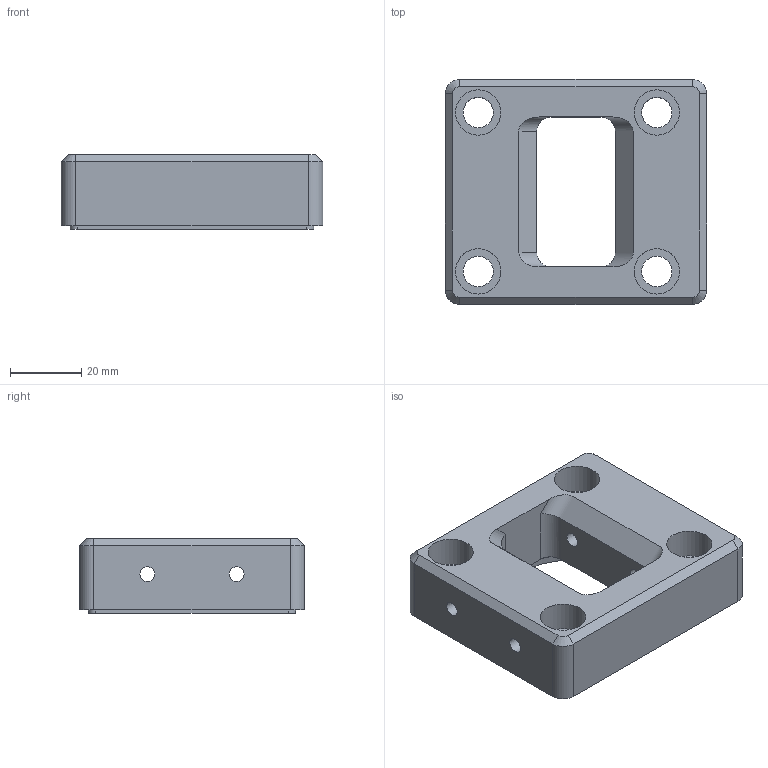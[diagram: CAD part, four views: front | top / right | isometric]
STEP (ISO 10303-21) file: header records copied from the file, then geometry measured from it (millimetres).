
FILE_DESCRIPTION( ( 'Unknown' ), '1' );
FILE_NAME( 'F:/navkite transat/construction/2016/3D ET ASSEMBLAGES/desal/DES 09.stp', 'Unknown', ( 'GMA' ), ( 'Unknown' ), 'XStep 1.0', 'Unknown', ' ' );
FILE_SCHEMA( ( 'automotive_design' ) );
Length unit declared in the file: millimetre
Products named in the file (1): 1
Bounding box: 73.25 x 63 x 21 mm (x, y, z)
Volume: 65432.3 mm3; surface area: 18467.3 mm2
Topology: 1 solids, 1 shells, 59 faces, 153 edges, 102 vertices
Faces by surface type: cylinder 29, plane 26, cone 4
Full cylindrical faces by diameter (mm): 4.134 x4, 8.5 x4, 12.7 x4, 45 x1
Entity records: 2216 total; most frequent: DIRECTION 314, CARTESIAN_POINT 286, ORIENTED_EDGE 264, EDGE_CURVE 132, AXIS2_PLACEMENT_3D 122, EDGE_LOOP 96, VERTEX_POINT 94, FACE_OUTER_BOUND 72
